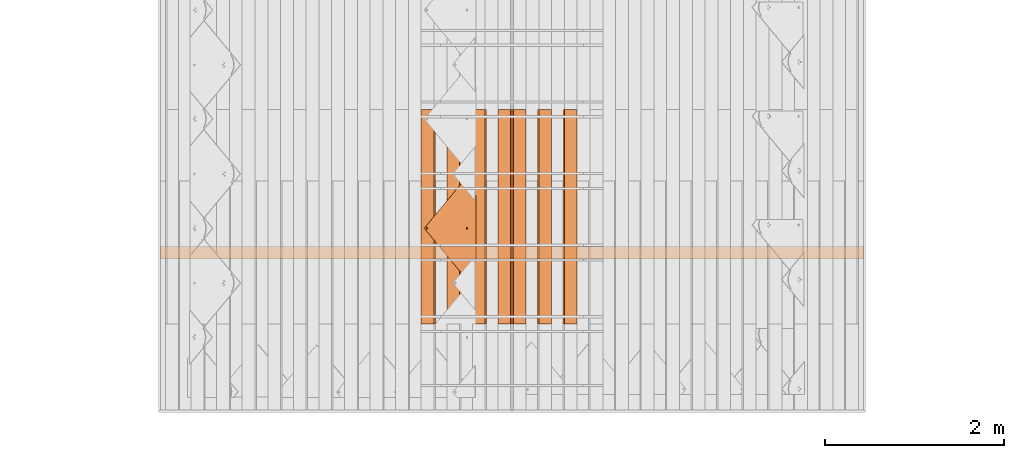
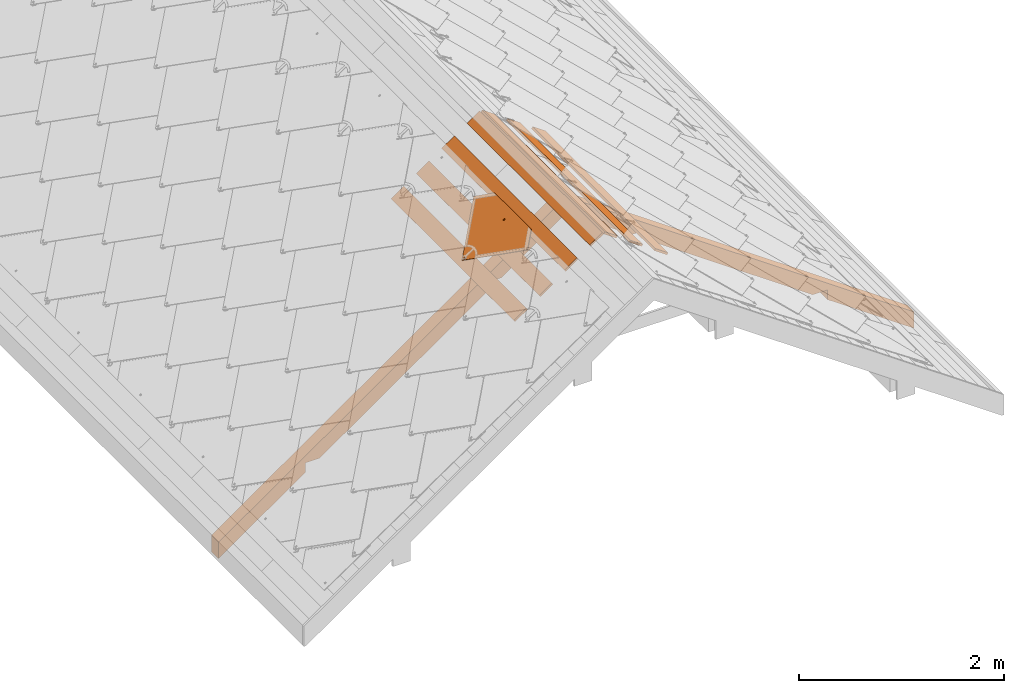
# One storey, part 31 of 133: 9 proxies, 1 element without a shape of its own.
"""IFC2X3 building model written with IfcOpenShell, lengths in millimetres."""

from ifc_helpers import new_model, entity, si_unit, converted_unit, derived_unit, direction, frame, frame_2d, origin, place, context, subcontext, project, spatial, polyline, rectangle, outline, extrude, faceted_brep, source, transform, mapped, material, material_list, type_object, type_shapes, element, aggregate, save


model = new_model("IFC2X3")

# Units and contexts
model_context = context("Model", 3, precision=0.01, world=origin(), true_north=direction((6.12303176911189e-17, 1.0)))
body_context = subcontext(model_context, "Body", "Model", "MODEL_VIEW")
ifc_project = project(units=[si_unit("LENGTHUNIT", "METRE", prefix="MILLI"), si_unit("AREAUNIT", "SQUARE_METRE"), si_unit("VOLUMEUNIT", "CUBIC_METRE"), converted_unit("PLANEANGLEUNIT", "DEGREE", entity("IfcRatioMeasure", 0.0174532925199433), si_unit("PLANEANGLEUNIT", "RADIAN"), dimensions=[0, 0, 0, 0, 0, 0, 0]), si_unit("MASSUNIT", "GRAM", prefix="KILO"), derived_unit("MASSDENSITYUNIT", [(si_unit("MASSUNIT", "GRAM", prefix="KILO"), 1), (si_unit("LENGTHUNIT", "METRE"), -3)]), si_unit("TIMEUNIT", "SECOND"), si_unit("FREQUENCYUNIT", "HERTZ"), si_unit("THERMODYNAMICTEMPERATUREUNIT", "DEGREE_CELSIUS"), derived_unit("THERMALTRANSMITTANCEUNIT", [(si_unit("MASSUNIT", "GRAM", prefix="KILO"), 1), (si_unit("THERMODYNAMICTEMPERATUREUNIT", "KELVIN"), -1), (si_unit("TIMEUNIT", "SECOND"), -3)]), derived_unit("VOLUMETRICFLOWRATEUNIT", [(si_unit("LENGTHUNIT", "METRE"), 3), (si_unit("TIMEUNIT", "SECOND"), -1)]), si_unit("ELECTRICCURRENTUNIT", "AMPERE"), si_unit("ELECTRICVOLTAGEUNIT", "VOLT"), si_unit("POWERUNIT", "WATT"), si_unit("FORCEUNIT", "NEWTON", prefix="KILO"), si_unit("ILLUMINANCEUNIT", "LUX"), si_unit("LUMINOUSFLUXUNIT", "LUMEN"), si_unit("LUMINOUSINTENSITYUNIT", "CANDELA"), derived_unit("USERDEFINED", [(si_unit("MASSUNIT", "GRAM", prefix="KILO"), -1), (si_unit("LENGTHUNIT", "METRE"), -2), (si_unit("TIMEUNIT", "SECOND"), 3), (si_unit("LUMINOUSFLUXUNIT", "LUMEN"), 1)]), derived_unit("LINEARVELOCITYUNIT", [(si_unit("LENGTHUNIT", "METRE"), 1), (si_unit("TIMEUNIT", "SECOND"), -1)]), si_unit("PRESSUREUNIT", "PASCAL"), derived_unit("USERDEFINED", [(si_unit("LENGTHUNIT", "METRE"), -2), (si_unit("MASSUNIT", "GRAM", prefix="KILO"), 1), (si_unit("TIMEUNIT", "SECOND"), -2)])], contexts=[model_context])

# Site, building, storey
site_placement = place(None, origin())
site = spatial("IfcSite", under=ifc_project, at=site_placement, Name="Default", CompositionType="ELEMENT")
building_placement = place(site_placement, origin())
building = spatial("IfcBuilding", under=site, at=building_placement, CompositionType="ELEMENT")
storey_placement = place(building_placement, origin())
storey = spatial("IfcBuildingStorey", under=building, at=storey_placement, Name="Level 1", CompositionType="ELEMENT", Elevation=0.0)

# Assembly, proxies
assembly_placement = place(storey_placement, origin())
assembly = element("IfcElementAssembly", 1, at=assembly_placement, inside=storey, Name="Structural Framing Assembly:Roof Construction Assembly", ObjectType="Structural Framing Assembly:Roof Construction Assembly", AssemblyPlace="NOTDEFINED", PredefinedType="USERDEFINED")
ifc_material_1 = material(Name="Wood - Generic - Wood For Showcase")
building_element_proxy_type_1 = type_object("IfcBuildingElementProxyType", Name="Structural Framing 1", PredefinedType="NOTDEFINED", material=ifc_material_1)
shared_shape_1 = source(origin(), body_context, "Body", "SweptSolid", [
    extrude(outline(polyline([(-929.245683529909, -1327.10037070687), (3863.2595049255, -1327.10037070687), (3975.29271103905, -1167.10037070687), (2778.93361405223, -1167.10037070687), (2713.54351952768, -1260.4871038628), (2580.17344271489, -1167.10037070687), (278.933614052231, -1167.10037070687), (213.543519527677, -1260.48710386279), (80.1734427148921, -1167.10037070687), (-817.212477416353, -1167.10037070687), (-1124.13653843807, -323.833443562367), (-1257.50661525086, -230.44671040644), (-1192.11652072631, -137.059977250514), (-1979.18689675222, 2025.39810840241), (-2112.55697356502, 2118.78484155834), (-2047.16687904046, 2212.17157471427), (-2456.34578886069, 3336.38138996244), (-2568.37899497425, 3176.38138996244), (-929.245683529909, -1327.10037070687)])), frame((1206.77890726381, 3785.55080214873, 1179.90959070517), z_axis=(0.0, 1.0, 0.0), x_axis=(0.819152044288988, 0.0, -0.573576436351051)), (0.0, 0.0, 1.0), 140.0),
])
type_shapes(building_element_proxy_type_1, [shared_shape_1])
proxy_1_placement = place(assembly_placement, frame((0.0, -8800.0, 0.0)))
proxy_1 = element("IfcBuildingElementProxy", 2, at=proxy_1_placement, type_object=building_element_proxy_type_1, material=ifc_material_1, Name="Structural Framing 12:Structural Framing 1", ObjectType="Structural Framing 12:Structural Framing 1", context=body_context, shape_type="MappedRepresentation", body=[
    mapped(shared_shape_1, transform((0.0, 0.0, 0.0), scale=1.0)),
])
building_element_proxy_type_2 = type_object("IfcBuildingElementProxyType", Name="Structural Framing 15", PredefinedType="NOTDEFINED", material=ifc_material_1)
shared_shape_2 = source(origin(), body_context, "Body", "SweptSolid", [
    extrude(rectangle(XDim=24.9999999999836, YDim=174.344679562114, at=frame_2d((2.97539770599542e-13, -4.2632564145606e-14), x_axis=(1.0, 0.0))), frame((1285.35601305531, 1525.55080214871, 2760.23940055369), z_axis=(0.0, 1.0, 0.0), x_axis=(0.573576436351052, 0.0, 0.819152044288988)), (0.0, 0.0, 1.0), 2400.0),
])
type_shapes(building_element_proxy_type_2, [shared_shape_2])
proxy_2_placement = place(assembly_placement, frame((0.0, -7270.0, 0.0)))
proxy_2 = element("IfcBuildingElementProxy", 3, at=proxy_2_placement, type_object=building_element_proxy_type_2, material=ifc_material_1, Name="Structural Framing 158:Structural Framing 15", ObjectType="Structural Framing 158:Structural Framing 15", context=body_context, shape_type="MappedRepresentation", body=[
    mapped(shared_shape_2, transform((0.0, 0.0, 0.0), scale=1.0)),
])
building_element_proxy_type_3 = type_object("IfcBuildingElementProxyType", Name="Structural Framing 15", PredefinedType="NOTDEFINED", material=ifc_material_1)
shared_shape_3 = source(origin(), body_context, "Body", "SweptSolid", [
    extrude(rectangle(XDim=24.9999999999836, YDim=174.344679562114, at=frame_2d((2.97539770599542e-13, -4.2632564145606e-14), x_axis=(1.0, 0.0))), frame((1285.35601305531, 1525.55080214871, 2760.23940055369), z_axis=(0.0, 1.0, 0.0), x_axis=(0.573576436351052, 0.0, 0.819152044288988)), (0.0, 0.0, 1.0), 2400.0),
])
type_shapes(building_element_proxy_type_3, [shared_shape_3])
proxy_3_placement = place(assembly_placement, frame((285.629601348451, -7270.0, -200.0)))
proxy_3 = element("IfcBuildingElementProxy", 4, at=proxy_3_placement, type_object=building_element_proxy_type_3, material=ifc_material_1, Name="Structural Framing 168:Structural Framing 15", ObjectType="Structural Framing 168:Structural Framing 15", context=body_context, shape_type="MappedRepresentation", body=[
    mapped(shared_shape_3, transform((0.0, 0.0, 0.0), scale=1.0)),
])
building_element_proxy_type_4 = type_object("IfcBuildingElementProxyType", Name="Structural Framing 15", PredefinedType="NOTDEFINED", material=ifc_material_1)
shared_shape_4 = source(origin(), body_context, "Body", "SweptSolid", [
    extrude(rectangle(XDim=24.9999999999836, YDim=174.344679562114, at=frame_2d((2.97539770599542e-13, -4.2632564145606e-14), x_axis=(1.0, 0.0))), frame((1285.35601305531, 1525.55080214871, 2760.23940055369), z_axis=(0.0, 1.0, 0.0), x_axis=(0.573576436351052, 0.0, 0.819152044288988)), (0.0, 0.0, 1.0), 2400.0),
])
type_shapes(building_element_proxy_type_4, [shared_shape_4])
proxy_4_placement = place(assembly_placement, frame((571.259202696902, -7270.0, -400.0)))
proxy_4 = element("IfcBuildingElementProxy", 5, at=proxy_4_placement, type_object=building_element_proxy_type_4, material=ifc_material_1, Name="Structural Framing 178:Structural Framing 15", ObjectType="Structural Framing 178:Structural Framing 15", context=body_context, shape_type="MappedRepresentation", body=[
    mapped(shared_shape_4, transform((0.0, 0.0, 0.0), scale=1.0)),
])
building_element_proxy_type_5 = type_object("IfcBuildingElementProxyType", Name="Structural Framing 15", PredefinedType="NOTDEFINED", material=ifc_material_1)
shared_shape_5 = source(origin(), body_context, "Body", "SweptSolid", [
    extrude(rectangle(XDim=24.9999999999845, YDim=174.344679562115, at=frame_2d((-1.77635683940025e-13, -4.54747350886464e-13), x_axis=(0.0, 1.0))), frame((1128.20180147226, 1525.55080214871, 2760.23940055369), z_axis=(0.0, 1.0, 0.0), x_axis=(-0.819152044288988, 0.0, -0.573576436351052)), (0.0, 0.0, 1.0), 2400.0),
])
type_shapes(building_element_proxy_type_5, [shared_shape_5])
proxy_5_placement = place(assembly_placement, frame((0.0, -7270.0, 0.0)))
proxy_5 = element("IfcBuildingElementProxy", 6, at=proxy_5_placement, type_object=building_element_proxy_type_5, material=ifc_material_1, Name="Structural Framing 18:Structural Framing 15", ObjectType="Structural Framing 18:Structural Framing 15", context=body_context, shape_type="MappedRepresentation", body=[
    mapped(shared_shape_5, transform((0.0, 0.0, 0.0), scale=1.0)),
])
building_element_proxy_type_6 = type_object("IfcBuildingElementProxyType", Name="Structural Framing 15", PredefinedType="NOTDEFINED", material=ifc_material_1)
shared_shape_6 = source(origin(), body_context, "Body", "SweptSolid", [
    extrude(rectangle(XDim=24.9999999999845, YDim=174.344679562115, at=frame_2d((-1.77635683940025e-13, -4.54747350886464e-13), x_axis=(0.0, 1.0))), frame((1128.20180147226, 1525.55080214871, 2760.23940055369), z_axis=(0.0, 1.0, 0.0), x_axis=(-0.819152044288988, 0.0, -0.573576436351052)), (0.0, 0.0, 1.0), 2400.0),
])
type_shapes(building_element_proxy_type_6, [shared_shape_6])
proxy_6_placement = place(assembly_placement, frame((-285.629601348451, -7270.0, -200.0)))
proxy_6 = element("IfcBuildingElementProxy", 7, at=proxy_6_placement, type_object=building_element_proxy_type_6, material=ifc_material_1, Name="Structural Framing 28:Structural Framing 15", ObjectType="Structural Framing 28:Structural Framing 15", context=body_context, shape_type="MappedRepresentation", body=[
    mapped(shared_shape_6, transform((0.0, 0.0, 0.0), scale=1.0)),
])
building_element_proxy_type_7 = type_object("IfcBuildingElementProxyType", Name="Structural Framing 15", PredefinedType="NOTDEFINED", material=ifc_material_1)
shared_shape_7 = source(origin(), body_context, "Body", "SweptSolid", [
    extrude(rectangle(XDim=24.9999999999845, YDim=174.344679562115, at=frame_2d((-1.77635683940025e-13, -4.54747350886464e-13), x_axis=(0.0, 1.0))), frame((1128.20180147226, 1525.55080214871, 2760.23940055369), z_axis=(0.0, 1.0, 0.0), x_axis=(-0.819152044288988, 0.0, -0.573576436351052)), (0.0, 0.0, 1.0), 2400.0),
])
type_shapes(building_element_proxy_type_7, [shared_shape_7])
proxy_7_placement = place(assembly_placement, frame((-571.259202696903, -7270.0, -400.0)))
proxy_7 = element("IfcBuildingElementProxy", 8, at=proxy_7_placement, type_object=building_element_proxy_type_7, material=ifc_material_1, Name="Structural Framing 38:Structural Framing 15", ObjectType="Structural Framing 38:Structural Framing 15", context=body_context, shape_type="MappedRepresentation", body=[
    mapped(shared_shape_7, transform((0.0, 0.0, 0.0), scale=1.0)),
])
building_element_proxy_type_8 = type_object("IfcBuildingElementProxyType", Name="Structural Framing 15", PredefinedType="NOTDEFINED", material=ifc_material_1)
shared_shape_8 = source(origin(), body_context, "Body", "SweptSolid", [
    extrude(rectangle(XDim=24.9999999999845, YDim=174.344679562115, at=frame_2d((-1.77635683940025e-13, -4.54747350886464e-13), x_axis=(0.0, 1.0))), frame((1128.20180147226, 1525.55080214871, 2760.23940055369), z_axis=(0.0, 1.0, 0.0), x_axis=(-0.819152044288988, 0.0, -0.573576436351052)), (0.0, 0.0, 1.0), 2400.0),
])
type_shapes(building_element_proxy_type_8, [shared_shape_8])
proxy_8_placement = place(assembly_placement, frame((-856.888804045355, -7270.0, -600.0)))
proxy_8 = element("IfcBuildingElementProxy", 9, at=proxy_8_placement, type_object=building_element_proxy_type_8, material=ifc_material_1, Name="Structural Framing 48:Structural Framing 15", ObjectType="Structural Framing 48:Structural Framing 15", context=body_context, shape_type="MappedRepresentation", body=[
    mapped(shared_shape_8, transform((0.0, 0.0, 0.0), scale=1.0)),
])
aggregate(assembly, [proxy_1, proxy_2, proxy_3, proxy_4, proxy_5, proxy_6, proxy_7, proxy_8])

# Proxy
ifc_material_2 = material(Name="Rubber - Sunstyle - Black")
ifc_material_3 = material(Name="Glass - Sunstyle - Tainted Black")
ifc_material_list_1 = material_list([ifc_material_2, ifc_material_3])
ifc_material_list_2 = material_list([ifc_material_2, ifc_material_3])
building_element_proxy_type_9 = type_object("IfcBuildingElementProxyType", Name="Shingle Top - Black", PredefinedType="NOTDEFINED", material=ifc_material_list_2)
shared_shape_9 = source(origin(), body_context, "Body", "Brep", [
    faceted_brep([(-518.396436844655, -96.9865733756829, 16.4476231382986), (-518.396436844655, -96.9614556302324, 17.9474128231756), (-526.881123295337, -88.4767691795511, 17.8053154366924), (-526.881123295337, -88.5018869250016, 16.3055257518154), (-376.996804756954, 61.3404039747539, 13.7960402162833), (-368.512118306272, 52.8557175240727, 13.9381376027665), (-376.996804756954, 61.3655217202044, 15.2958299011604), (-368.512118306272, 52.8808352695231, 15.4379272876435)], [[[0, 1, 2, 3]], [[0, 3, 4, 5]], [[3, 2, 6, 4]], [[2, 1, 7, 6]], [[1, 0, 5, 7]], [[5, 4, 6, 7]]]),
    faceted_brep([(0.166366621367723, -33.6374645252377, -4.47296585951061), (-5.6078362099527, -36.9707346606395, -4.4171418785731), (-5.60783620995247, -36.6024255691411, 17.5747274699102), (0.166366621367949, -33.2691554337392, 17.5189034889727), (-5.60783620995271, -43.6372749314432, -4.30549391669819), (-5.60783620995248, -43.2689658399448, 17.6863754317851), (0.166366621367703, -46.9705450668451, -4.24966993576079), (0.166366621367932, -46.6022359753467, 17.7421994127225), (5.94056945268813, -43.6372749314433, -4.30549391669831), (5.94056945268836, -43.2689658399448, 17.686375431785), (5.94056945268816, -36.9707346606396, -4.41714187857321), (5.94056945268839, -36.6024255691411, 17.5747274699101), (-8.43733754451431, -48.5381935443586, 17.774621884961), (0.16636662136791, -52.1014648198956, 17.8342978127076), (-12.0011084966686, -39.9356957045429, 17.6305514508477), (-8.43733754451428, -31.3331978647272, 17.4864810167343), (0.166366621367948, -27.7699265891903, 17.4268050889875), (8.77007078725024, -31.3331978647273, 17.4864810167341), (12.3338417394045, -39.935695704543, 17.6305514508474), (8.77007078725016, -48.5381935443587, 17.7746218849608), (-11.1578780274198, -37.6406185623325, 19.9433933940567), (-9.59010793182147, -39.8646808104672, 21.8708760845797), (0.166366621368, -32.5516055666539, 22.5035764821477), (0.166366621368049, -31.3111079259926, 21.9232298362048), (0.166366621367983, -29.1535570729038, 20.9138547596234), (0.166366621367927, -51.5454208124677, 19.1093557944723), (0.166366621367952, -50.6018442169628, 21.273060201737), (0.166366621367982, -47.1524685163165, 22.7481046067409), (0.166366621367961, -28.2829626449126, 18.7197675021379), (-6.15687907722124, -43.5022527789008, 22.6869725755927), (-6.15687907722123, -36.2018213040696, 22.5647085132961), (11.4906112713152, -42.1520387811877, 20.0189484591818), (10.0152467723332, -40.9390872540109, 21.7920079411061), (6.48961231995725, -36.2018213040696, 22.564708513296), (6.48961231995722, -43.5022527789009, 22.6869725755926), (-6.15687907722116, -43.3682243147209, 30.68986075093), (0.166366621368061, -47.0184400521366, 30.7509927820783), (0.166366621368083, -39.7180085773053, 30.6287287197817), (-6.15687907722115, -36.0677928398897, 30.5675966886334), (6.48961231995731, -43.368224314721, 30.6898607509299), (6.48961231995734, -36.0677928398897, 30.5675966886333), (0.166366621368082, -32.417577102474, 30.5064646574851), (0.166366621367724, -40.3040047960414, -4.36131789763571)], [[[0, 1, 2, 3]], [[1, 4, 5, 2]], [[4, 6, 7, 5]], [[6, 8, 9, 7]], [[8, 10, 11, 9]], [[10, 0, 3, 11]], [[12, 7, 13]], [[7, 12, 5]], [[14, 5, 12]], [[5, 14, 2]], [[15, 2, 14]], [[3, 2, 15]], [[15, 16, 3]], [[16, 17, 3]], [[11, 3, 17]], [[11, 17, 18]], [[9, 11, 18]], [[18, 19, 9]], [[7, 9, 19]], [[19, 13, 7]], [[20, 14, 12]], [[21, 22, 23, 24]], [[24, 20, 21]], [[25, 20, 12]], [[26, 27, 21]], [[15, 14, 20]], [[12, 13, 25]], [[20, 28, 15]], [[28, 20, 24]], [[21, 27, 29]], [[21, 29, 30]], [[26, 21, 20]], [[20, 25, 26]], [[15, 28, 16]], [[21, 30, 22]], [[31, 18, 17]], [[28, 31, 17]], [[32, 27, 26]], [[26, 31, 32]], [[26, 25, 31]], [[25, 19, 31]], [[17, 16, 28]], [[31, 19, 18]], [[24, 31, 28]], [[33, 34, 32]], [[23, 22, 33]], [[24, 32, 31]], [[27, 32, 34]], [[32, 23, 33]], [[19, 25, 13]], [[32, 24, 23]], [[35, 36, 37]], [[37, 38, 35]], [[36, 39, 37]], [[40, 37, 39]], [[37, 40, 41]], [[37, 41, 38]], [[42, 6, 4]], [[4, 1, 42]], [[1, 0, 42]], [[42, 8, 6]], [[0, 10, 42]], [[8, 42, 10]], [[22, 30, 38, 41]], [[30, 29, 35, 38]], [[29, 27, 36, 35]], [[27, 34, 39, 36]], [[34, 33, 40, 39]], [[33, 22, 41, 40]]]),
    faceted_brep([(0.0, -573.927138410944, 4.00636906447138), (-5.77420283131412, -577.260408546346, 4.0621930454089), (-5.77420283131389, -576.892099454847, 26.0540623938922), (0.0, -573.558829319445, 25.9982384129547), (-5.77420283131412, -583.926948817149, 4.1738410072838), (-5.7742028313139, -583.558639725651, 26.1657103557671), (0.0, -587.260218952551, 4.2296649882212), (0.0, -586.891909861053, 26.2215343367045), (5.77420283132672, -583.926948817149, 4.17384100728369), (5.77420283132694, -583.558639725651, 26.165710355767), (5.77420283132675, -577.260408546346, 4.06219304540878), (5.77420283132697, -576.892099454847, 26.0540623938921), (-8.60370416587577, -588.827867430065, 26.253956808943), (0.0, -592.391138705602, 26.3136327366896), (-12.1674751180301, -580.225369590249, 26.1098863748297), (-8.60370416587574, -571.622871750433, 25.9658159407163), (0.0, -568.059600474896, 25.9061400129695), (8.60370416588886, -571.622871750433, 25.9658159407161), (12.1674751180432, -580.225369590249, 26.1098863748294), (8.60370416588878, -588.827867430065, 26.2539568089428), (-11.3242446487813, -577.930292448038, 28.4227283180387), (-9.75647455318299, -580.154354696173, 30.3502110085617), (0.0, -572.84127945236, 30.9829114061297), (0.0, -571.600781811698, 30.4025647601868), (0.0, -569.44323095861, 29.3931896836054), (0.0, -591.835094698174, 27.5886907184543), (0.0, -590.891518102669, 29.752395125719), (0.0, -587.442142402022, 31.227439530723), (0.0, -568.572636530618, 27.1991024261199), (-6.32324569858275, -583.791926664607, 31.1663074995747), (-6.32324569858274, -576.491495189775, 31.0440434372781), (11.3242446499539, -582.441712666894, 28.4982833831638), (9.84888015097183, -581.228761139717, 30.2713428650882), (6.32324569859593, -576.491495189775, 31.044043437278), (6.32324569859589, -583.791926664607, 31.1663074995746), (-6.32324569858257, -583.657898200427, 39.169195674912), (0.0, -587.308113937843, 39.2303277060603), (0.0, -580.007682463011, 39.1080636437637), (-6.32324569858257, -576.357466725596, 39.0469316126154), (6.32324569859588, -583.657898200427, 39.1691956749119), (6.32324569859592, -576.357466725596, 39.0469316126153), (0.0, -572.70725098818, 38.9857995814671), (0.0, -580.593678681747, 4.11801702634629)], [[[0, 1, 2, 3]], [[1, 4, 5, 2]], [[4, 6, 7, 5]], [[6, 8, 9, 7]], [[8, 10, 11, 9]], [[10, 0, 3, 11]], [[12, 7, 13]], [[7, 12, 5]], [[14, 5, 12]], [[5, 14, 2]], [[15, 2, 14]], [[3, 2, 15]], [[15, 16, 3]], [[16, 17, 3]], [[11, 3, 17]], [[11, 17, 18]], [[9, 11, 18]], [[18, 19, 9]], [[7, 9, 19]], [[19, 13, 7]], [[20, 14, 12]], [[21, 22, 23, 24]], [[24, 20, 21]], [[25, 20, 12]], [[26, 27, 21]], [[15, 14, 20]], [[12, 13, 25]], [[20, 28, 15]], [[28, 20, 24]], [[21, 27, 29]], [[21, 29, 30]], [[26, 21, 20]], [[20, 25, 26]], [[15, 28, 16]], [[21, 30, 22]], [[31, 18, 17]], [[28, 31, 17]], [[32, 27, 26]], [[26, 31, 32]], [[26, 25, 31]], [[25, 19, 31]], [[17, 16, 28]], [[31, 19, 18]], [[24, 31, 28]], [[33, 34, 32]], [[23, 22, 33]], [[24, 32, 31]], [[27, 32, 34]], [[32, 23, 33]], [[19, 25, 13]], [[32, 24, 23]], [[35, 36, 37]], [[37, 38, 35]], [[36, 39, 37]], [[40, 37, 39]], [[37, 40, 41]], [[37, 41, 38]], [[42, 6, 4]], [[4, 1, 42]], [[1, 0, 42]], [[42, 8, 6]], [[0, 10, 42]], [[8, 42, 10]], [[22, 30, 38, 41]], [[30, 29, 35, 38]], [[29, 27, 36, 35]], [[27, 34, 39, 36]], [[34, 33, 40, 39]], [[33, 22, 41, 40]]]),
    faceted_brep([(518.482751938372, -96.8754983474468, 17.9260478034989), (526.967438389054, -88.3908118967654, 17.7839504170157), (526.967438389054, -88.3656941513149, 19.2837401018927), (518.482751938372, -96.8503806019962, 19.4258374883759), (349.749400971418, 71.8105397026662, 15.1009763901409), (358.234087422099, 80.2952261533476, 14.9588790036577), (358.234087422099, 80.3203438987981, 16.4586686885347), (349.749400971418, 71.8356574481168, 16.6007660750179)], [[[0, 1, 2, 3]], [[1, 0, 4, 5]], [[2, 1, 5, 6]], [[3, 2, 6, 7]], [[0, 3, 7, 4]], [[4, 7, 6, 5]]]),
    faceted_brep([(358.234087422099, 80.2952261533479, 14.9588790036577), (6.94661128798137, -35.8890860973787, 16.9046771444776), (7.74581466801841, -37.8182632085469, 16.9369860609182), (5.67526230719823, -34.2324641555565, 16.8769328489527), (8.01840805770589, -39.8885252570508, 16.9716577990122), (7.74581466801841, -41.9587873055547, 17.0063295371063), (6.94661128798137, -43.8879644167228, 17.0386384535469), (526.967438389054, -88.3908118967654, 17.7839504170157), (4.01840805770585, -32.9612934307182, 16.855643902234), (2.08896041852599, -32.1622021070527, 16.8422611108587), (0.0184080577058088, -31.8896469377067, 16.8376964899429), (-358.233442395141, 80.2952261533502, 14.9588790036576), (-2.05214430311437, -32.1622021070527, 16.8422611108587), (-3.98159194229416, -32.9612934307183, 16.855643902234), (-5.63844619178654, -34.2324641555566, 16.8769328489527), (-6.90979517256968, -35.8890860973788, 16.9046771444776), (-7.70899855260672, -37.8182632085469, 16.9369860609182), (-7.98159194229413, -39.8885252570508, 16.9716577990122), (-7.70899855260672, -41.9587873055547, 17.0063295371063), (-6.90979517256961, -43.8879644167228, 17.0386384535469), (-526.966793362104, -88.390811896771, 17.7839504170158), (-5.63844619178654, -45.544586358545, 17.0663827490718), (-5.6568542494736, -574.226981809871, 25.9204974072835), (-6.92820323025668, -575.883603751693, 25.9482417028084), (-7.72740661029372, -577.812780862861, 25.980550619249), (-8.0, -579.883042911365, 26.015222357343), (-7.72740661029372, -581.953304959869, 26.049894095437), (0.000322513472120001, -615.210165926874, 26.6068637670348), (7.72740661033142, -581.953304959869, 26.049894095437), (6.92820323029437, -583.882482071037, 26.0822030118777), (5.65685424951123, -585.53910401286, 26.1099473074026), (4.0, -586.810274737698, 26.1312362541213), (2.070552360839, -587.609366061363, 26.1446190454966), (0.0, -587.881921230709, 26.1491836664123), (-2.0705523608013, -587.609366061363, 26.1446190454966), (-4.0, -586.810274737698, 26.1312362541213), (-5.65685424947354, -585.53910401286, 26.1099473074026), (-6.92820323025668, -583.882482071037, 26.0822030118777), (-4.0, -572.955811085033, 25.8992084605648), (-3.98159194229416, -46.8157570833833, 17.0876716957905), (-2.07055236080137, -572.156719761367, 25.8858256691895), (-2.05214430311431, -47.614848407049, 17.1010544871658), (0.0, -571.884164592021, 25.8812610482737), (0.0184080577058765, -47.8874035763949, 17.1056191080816), (2.07055236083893, -572.156719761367, 25.8858256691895), (2.08896041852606, -47.6148484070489, 17.1010544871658), (4.0, -572.955811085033, 25.8992084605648), (4.01840805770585, -46.8157570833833, 17.0876716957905), (5.65685424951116, -574.226981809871, 25.9204974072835), (5.67526230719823, -45.544586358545, 17.0663827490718), (6.92820323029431, -575.883603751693, 25.9482417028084), (7.72740661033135, -577.812780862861, 25.980550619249), (8.0, -579.883042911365, 26.015222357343), (-358.233442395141, 80.1947551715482, 8.9597202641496), (-6.90979517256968, -35.9895570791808, 10.9055184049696), (-7.70899855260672, -37.9187341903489, 10.9378273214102), (-5.63844619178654, -34.3329351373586, 10.8777741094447), (-7.98159194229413, -39.9889962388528, 10.9724990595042), (-7.70899855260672, -42.0592582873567, 11.0071707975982), (-6.90979517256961, -43.9884353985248, 11.0394797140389), (-526.966793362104, -88.4912828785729, 11.7847916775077), (-3.98159194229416, -33.0617644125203, 10.856485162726), (-2.05214430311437, -32.2626730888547, 10.8431023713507), (0.0184080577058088, -31.9901179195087, 10.8385377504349), (358.234087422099, 80.1947551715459, 8.95972026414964), (2.08896041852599, -32.2626730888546, 10.8431023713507), (4.01840805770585, -33.0617644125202, 10.856485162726), (5.67526230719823, -34.3329351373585, 10.8777741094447), (6.94661128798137, -35.9895570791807, 10.9055184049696), (7.74581466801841, -37.9187341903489, 10.9378273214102), (8.01840805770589, -39.9889962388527, 10.9724990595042), (7.74581466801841, -42.0592582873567, 11.0071707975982), (6.94661128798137, -43.9884353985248, 11.0394797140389), (526.967438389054, -88.4912828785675, 11.7847916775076), (5.67526230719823, -45.645057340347, 11.0672240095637), (5.65685424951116, -574.327452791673, 19.9213386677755), (6.92820323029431, -575.984074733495, 19.9490829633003), (7.72740661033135, -577.913251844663, 19.981391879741), (8.0, -579.983513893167, 20.016063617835), (7.72740661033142, -582.053775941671, 20.050735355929), (0.000322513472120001, -615.310636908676, 20.6077050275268), (-7.72740661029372, -582.053775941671, 20.050735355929), (-6.92820323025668, -583.982953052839, 20.0830442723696), (-5.65685424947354, -585.639574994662, 20.1107885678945), (-4.0, -586.9107457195, 20.1320775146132), (-2.0705523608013, -587.709837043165, 20.1454603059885), (0.0, -587.982392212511, 20.1500249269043), (2.070552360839, -587.709837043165, 20.1454603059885), (4.0, -586.9107457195, 20.1320775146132), (5.65685424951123, -585.639574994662, 20.1107885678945), (6.92820323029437, -583.982953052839, 20.0830442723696), (4.01840805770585, -46.9162280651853, 11.0885129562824), (4.0, -573.056282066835, 19.9000497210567), (2.08896041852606, -47.7153193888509, 11.1018957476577), (2.07055236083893, -572.257190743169, 19.8866669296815), (0.0184080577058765, -47.9878745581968, 11.1064603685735), (0.0, -571.984635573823, 19.8821023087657), (-2.05214430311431, -47.7153193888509, 11.1018957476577), (-2.07055236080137, -572.257190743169, 19.8866669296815), (-3.98159194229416, -46.9162280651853, 11.0885129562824), (-4.0, -573.056282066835, 19.9000497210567), (-5.63844619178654, -45.645057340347, 11.0672240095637), (-5.6568542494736, -574.327452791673, 19.9213386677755), (-6.92820323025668, -575.984074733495, 19.9490829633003), (-7.72740661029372, -577.913251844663, 19.981391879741), (-8.0, -579.983513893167, 20.016063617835)], [[[0, 1, 2]], [[1, 0, 3]], [[0, 2, 4]], [[4, 5, 0]], [[5, 6, 0]], [[7, 0, 6]], [[8, 3, 0]], [[9, 8, 0]], [[10, 9, 0]], [[0, 11, 10]], [[12, 10, 11]], [[13, 12, 11]], [[14, 13, 11]], [[11, 15, 14]], [[15, 11, 16]], [[16, 11, 17]], [[11, 18, 17]], [[18, 11, 19]], [[11, 20, 19]], [[19, 20, 21]], [[20, 22, 21]], [[23, 22, 20]], [[24, 23, 20]], [[24, 20, 25]], [[26, 25, 20]], [[27, 26, 20]], [[7, 28, 27]], [[29, 27, 28]], [[27, 29, 30]], [[30, 31, 27]], [[31, 32, 27]], [[27, 32, 33]], [[27, 33, 34]], [[34, 35, 27]], [[27, 35, 36]], [[36, 37, 27]], [[37, 26, 27]], [[38, 21, 22]], [[38, 39, 21]], [[38, 40, 39]], [[40, 41, 39]], [[40, 42, 41]], [[41, 42, 43]], [[44, 43, 42]], [[44, 45, 43]], [[45, 44, 46]], [[46, 47, 45]], [[46, 48, 47]], [[48, 49, 47]], [[50, 7, 48]], [[48, 7, 49]], [[7, 50, 51]], [[7, 51, 52]], [[52, 28, 7]], [[7, 6, 49]], [[53, 54, 55]], [[54, 53, 56]], [[53, 55, 57]], [[58, 53, 57]], [[59, 53, 58]], [[60, 53, 59]], [[61, 56, 53]], [[62, 61, 53]], [[53, 63, 62]], [[63, 53, 64]], [[65, 63, 64]], [[66, 65, 64]], [[64, 67, 66]], [[67, 64, 68]], [[68, 64, 69]], [[70, 69, 64]], [[71, 70, 64]], [[72, 71, 64]], [[72, 64, 73]], [[72, 73, 74]], [[74, 73, 75]], [[73, 76, 75]], [[76, 73, 77]], [[77, 73, 78]], [[79, 78, 73]], [[79, 73, 80]], [[60, 81, 80]], [[80, 81, 82]], [[80, 82, 83]], [[83, 84, 80]], [[84, 85, 80]], [[85, 86, 80]], [[80, 86, 87]], [[80, 87, 88]], [[80, 88, 89]], [[79, 80, 90]], [[80, 89, 90]], [[75, 91, 74]], [[75, 92, 91]], [[92, 93, 91]], [[93, 92, 94]], [[93, 94, 95]], [[96, 95, 94]], [[97, 95, 96]], [[96, 98, 97]], [[98, 99, 97]], [[98, 100, 99]], [[100, 101, 99]], [[100, 102, 101]], [[60, 101, 102]], [[103, 60, 102]], [[103, 104, 60]], [[104, 105, 60]], [[105, 81, 60]], [[59, 101, 60]], [[27, 20, 60, 80]], [[7, 27, 80, 73]], [[0, 7, 73, 64]], [[25, 105, 104, 24]], [[24, 104, 103, 23]], [[38, 22, 102, 100]], [[102, 22, 23, 103]], [[40, 38, 100, 98]], [[40, 98, 96, 42]], [[42, 96, 94, 44]], [[44, 94, 92, 46]], [[50, 48, 75, 76]], [[75, 48, 46, 92]], [[51, 50, 76, 77]], [[51, 77, 78, 52]], [[52, 78, 79, 28]], [[28, 79, 90, 29]], [[31, 30, 89, 88]], [[29, 90, 89, 30]], [[87, 32, 31, 88]], [[32, 87, 86, 33]], [[34, 33, 86, 85]], [[34, 85, 84, 35]], [[37, 36, 83, 82]], [[35, 84, 83, 36]], [[37, 82, 81, 26]], [[26, 81, 105, 25]], [[17, 57, 55, 16]], [[16, 55, 54, 15]], [[13, 14, 56, 61]], [[56, 14, 15, 54]], [[12, 13, 61, 62]], [[12, 62, 63, 10]], [[10, 63, 65, 9]], [[9, 65, 66, 8]], [[1, 3, 67, 68]], [[67, 3, 8, 66]], [[2, 1, 68, 69]], [[2, 69, 70, 4]], [[4, 70, 71, 5]], [[5, 71, 72, 6]], [[47, 49, 74, 91]], [[74, 49, 6, 72]], [[45, 47, 91, 93]], [[45, 93, 95, 43]], [[43, 95, 97, 41]], [[41, 97, 99, 39]], [[19, 21, 101, 59]], [[101, 21, 39, 99]], [[18, 19, 59, 58]], [[18, 58, 57, 17]], [[11, 0, 64, 53]], [[20, 11, 53, 60]]]),
])
type_shapes(building_element_proxy_type_9, [shared_shape_9])
proxy_9_placement = place(storey_placement, frame((745.409615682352, -4672.36920296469, 2507.46510885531), z_axis=(-0.57357643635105, 0.0, 0.819152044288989), x_axis=(0.0, -1.0, 0.0)))
element("IfcBuildingElementProxy", 10, at=proxy_9_placement, inside=storey, type_object=building_element_proxy_type_9, material=ifc_material_list_1, Name="Roofing_Panels_SunStyle_Tile_Shingle-Top:Shingle Top - Black", ObjectType="Roofing_Panels_SunStyle_Tile_Shingle-Top:Shingle Top - Black", context=body_context, shape_type="MappedRepresentation", body=[
    mapped(shared_shape_9, transform((0.0, 0.0, 0.0), scale=1.0)),
])

save(model, "model.ifc")
